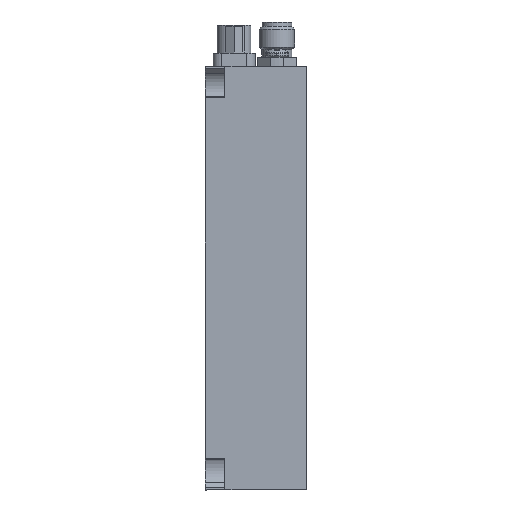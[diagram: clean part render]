
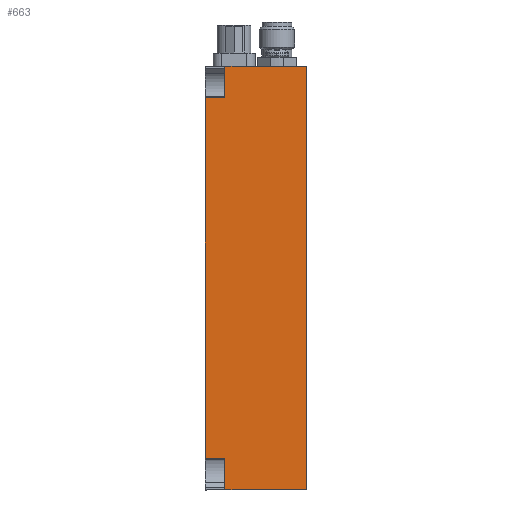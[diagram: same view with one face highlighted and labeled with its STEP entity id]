
A CAD part, left-side view. The second image highlights one B-rep face of the part: STEP entity #663.
In plain terms, the highlighted planar face has unit normal (-1, 0, 0).
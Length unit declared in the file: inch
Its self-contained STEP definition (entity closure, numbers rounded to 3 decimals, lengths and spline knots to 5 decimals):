
#663 = ADVANCED_FACE ( 'NONE', ( #32188 ), #22185, .F. ) ;
#905 = ORIENTED_EDGE ( 'NONE', *, *, #5450, .F. ) ;
#1244 = CARTESIAN_POINT ( 'NONE',  ( -0.21071, 1.98151, 0.70477 ) ) ;
#1369 = VECTOR ( 'NONE', #30707, 39.37008 ) ;
#1418 = VECTOR ( 'NONE', #16430, 39.37008 ) ;
#1711 = ORIENTED_EDGE ( 'NONE', *, *, #30756, .F. ) ;
#2499 = LINE ( 'NONE', #2840, #20421 ) ;
#2840 = CARTESIAN_POINT ( 'NONE',  ( -0.21071, 1.98151, 3.48176 ) ) ;
#3204 = CARTESIAN_POINT ( 'NONE',  ( -0.21071, 2.12151, 3.70477 ) ) ;
#4949 = AXIS2_PLACEMENT_3D ( 'NONE', #32035, #9122, #26846 ) ;
#5450 = EDGE_CURVE ( 'NONE', #27012, #32108, #25981, .T. ) ;
#5470 = CARTESIAN_POINT ( 'NONE',  ( -0.21071, 1.98151, 3.70477 ) ) ;
#6354 = VERTEX_POINT ( 'NONE', #18273 ) ;
#8077 = EDGE_CURVE ( 'NONE', #28932, #15192, #21462, .T. ) ;
#8555 = DIRECTION ( 'NONE',  ( 0., -1., 0. ) ) ;
#9122 = DIRECTION ( 'NONE',  ( 1., 0., 0. ) ) ;
#9634 = VERTEX_POINT ( 'NONE', #21558 ) ;
#9860 = EDGE_CURVE ( 'NONE', #17711, #27012, #24028, .T. ) ;
#11459 = VECTOR ( 'NONE', #13769, 39.37008 ) ;
#11641 = CARTESIAN_POINT ( 'NONE',  ( -0.21071, 1.40151, 0.70477 ) ) ;
#13343 = DIRECTION ( 'NONE',  ( 0., 1., 0. ) ) ;
#13599 = LINE ( 'NONE', #3204, #27608 ) ;
#13607 = ORIENTED_EDGE ( 'NONE', *, *, #14037, .F. ) ;
#13769 = DIRECTION ( 'NONE',  ( 0., 0., 1. ) ) ;
#14037 = EDGE_CURVE ( 'NONE', #28932, #17711, #21850, .T. ) ;
#15192 = VERTEX_POINT ( 'NONE', #24088 ) ;
#16300 = ORIENTED_EDGE ( 'NONE', *, *, #27979, .F. ) ;
#16430 = DIRECTION ( 'NONE',  ( 0., -1., 0. ) ) ;
#16465 = LINE ( 'NONE', #11641, #17235 ) ;
#16819 = EDGE_CURVE ( 'NONE', #6354, #32108, #2499, .T. ) ;
#16907 = ORIENTED_EDGE ( 'NONE', *, *, #20312, .T. ) ;
#17235 = VECTOR ( 'NONE', #31991, 39.37008 ) ;
#17711 = VERTEX_POINT ( 'NONE', #23108 ) ;
#18273 = CARTESIAN_POINT ( 'NONE',  ( -0.21071, 1.98151, 3.48176 ) ) ;
#18922 = CARTESIAN_POINT ( 'NONE',  ( -0.21071, 2.12151, 0.70477 ) ) ;
#19996 = ORIENTED_EDGE ( 'NONE', *, *, #9860, .F. ) ;
#20251 = VECTOR ( 'NONE', #28854, 39.37008 ) ;
#20312 = EDGE_CURVE ( 'NONE', #15192, #9634, #16465, .T. ) ;
#20421 = VECTOR ( 'NONE', #33117, 39.37008 ) ;
#20526 = LINE ( 'NONE', #5470, #1369 ) ;
#20650 = CARTESIAN_POINT ( 'NONE',  ( -0.21071, 2.12151, 3.48176 ) ) ;
#21293 = CARTESIAN_POINT ( 'NONE',  ( -0.21071, 2.12151, 0.70477 ) ) ;
#21462 = LINE ( 'NONE', #18922, #1418 ) ;
#21558 = CARTESIAN_POINT ( 'NONE',  ( -0.21071, 1.40151, 3.70477 ) ) ;
#21850 = LINE ( 'NONE', #1244, #20251 ) ;
#22185 = PLANE ( 'NONE',  #4949 ) ;
#22231 = CARTESIAN_POINT ( 'NONE',  ( -0.21071, 1.98151, 3.70477 ) ) ;
#23108 = CARTESIAN_POINT ( 'NONE',  ( -0.21071, 1.98151, 0.92779 ) ) ;
#23680 = VERTEX_POINT ( 'NONE', #22231 ) ;
#24028 = LINE ( 'NONE', #31363, #28200 ) ;
#24088 = CARTESIAN_POINT ( 'NONE',  ( -0.21071, 1.40151, 0.70477 ) ) ;
#25981 = LINE ( 'NONE', #21293, #11459 ) ;
#26846 = DIRECTION ( 'NONE',  ( 0., 0., -1. ) ) ;
#27012 = VERTEX_POINT ( 'NONE', #28830 ) ;
#27296 = ORIENTED_EDGE ( 'NONE', *, *, #8077, .T. ) ;
#27608 = VECTOR ( 'NONE', #8555, 39.37008 ) ;
#27979 = EDGE_CURVE ( 'NONE', #6354, #23680, #20526, .T. ) ;
#28200 = VECTOR ( 'NONE', #13343, 39.37008 ) ;
#28594 = ORIENTED_EDGE ( 'NONE', *, *, #16819, .T. ) ;
#28830 = CARTESIAN_POINT ( 'NONE',  ( -0.21071, 2.12151, 0.92779 ) ) ;
#28854 = DIRECTION ( 'NONE',  ( 0., 0., 1. ) ) ;
#28932 = VERTEX_POINT ( 'NONE', #29243 ) ;
#28939 = EDGE_LOOP ( 'NONE', ( #905, #19996, #13607, #27296, #16907, #1711, #16300, #28594 ) ) ;
#29243 = CARTESIAN_POINT ( 'NONE',  ( -0.21071, 1.98151, 0.70477 ) ) ;
#30707 = DIRECTION ( 'NONE',  ( 0., 0., 1. ) ) ;
#30756 = EDGE_CURVE ( 'NONE', #23680, #9634, #13599, .T. ) ;
#31363 = CARTESIAN_POINT ( 'NONE',  ( -0.21071, 1.98151, 0.92779 ) ) ;
#31991 = DIRECTION ( 'NONE',  ( 0., 0., 1. ) ) ;
#32035 = CARTESIAN_POINT ( 'NONE',  ( -0.21071, 2.12151, 0.70477 ) ) ;
#32108 = VERTEX_POINT ( 'NONE', #20650 ) ;
#32188 = FACE_OUTER_BOUND ( 'NONE', #28939, .T. ) ;
#33117 = DIRECTION ( 'NONE',  ( 0., 1., 0. ) ) ;
